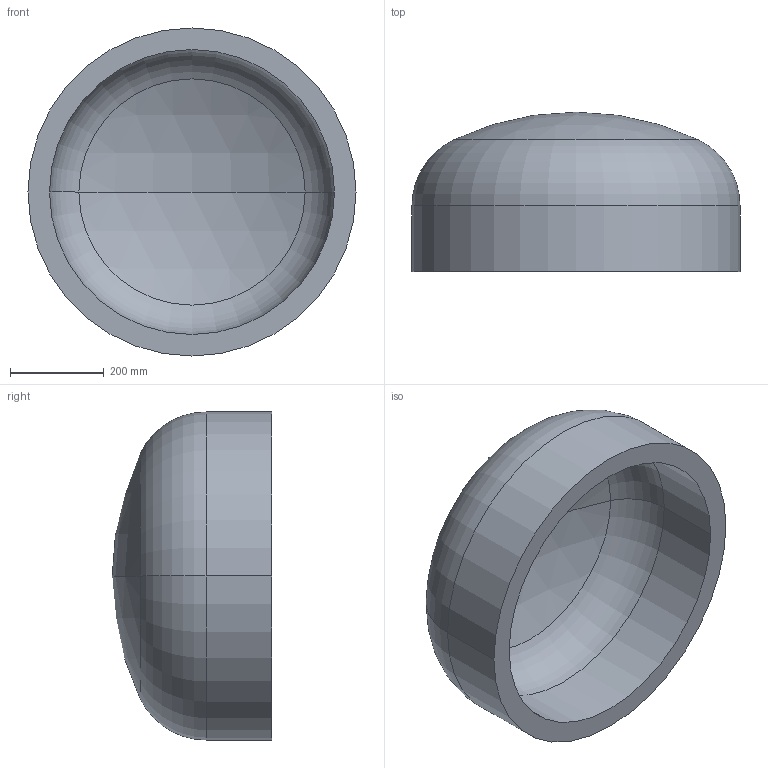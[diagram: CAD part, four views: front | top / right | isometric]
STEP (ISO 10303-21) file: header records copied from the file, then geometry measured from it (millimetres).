
FILE_DESCRIPTION (( 'STEP AP203' ), '1' );
FILE_NAME ('DIN 28013 Korbbogenform_-_Boden DIN 28013 - 700 x 140 - I - s=46.step', '2016-07-01T08:08:21', ( '' ), ( '' ), 'SwSTEP 2.0', 'SolidWorks 2013', '' );
FILE_SCHEMA (( 'CONFIG_CONTROL_DESIGN' ));
Length unit declared in the file: millimetre
Products named in the file (1): DIN 28013 Korbbogenform_-_Boden DIN 28013 - 700 x 140 - I - s=46
Bounding box: 700 x 339.97 x 700 mm (x, y, z)
Volume: 35883724 mm3; surface area: 1659105.1 mm2
Topology: 1 solids, 1 shells, 13 faces, 24 edges, 14 vertices
Faces by surface type: torus 4, cylinder 4, sphere 4, plane 1
Entity records: 407 total; most frequent: DIRECTION 72, CARTESIAN_POINT 52, ORIENTED_EDGE 48, AXIS2_PLACEMENT_3D 34, EDGE_CURVE 24, CIRCLE 20, EDGE_LOOP 14, VERTEX_POINT 14
